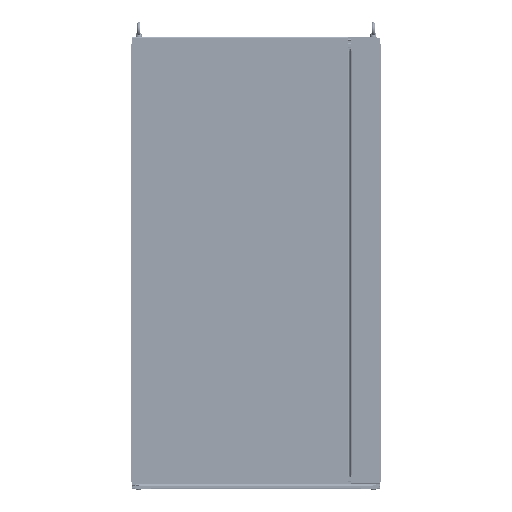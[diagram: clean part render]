
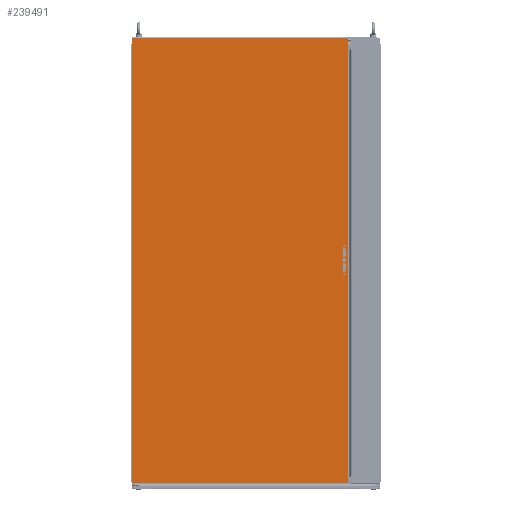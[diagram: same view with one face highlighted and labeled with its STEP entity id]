
A CAD part, top view. The second image highlights one B-rep face of the part: STEP entity #239491.
In plain terms, the highlighted planar face has unit normal (0, 0, 1).
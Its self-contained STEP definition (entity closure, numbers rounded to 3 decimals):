
#237640=DIRECTION('',(0.,1.,0.));
#237641=VECTOR('',#237640,1696.);
#237642=CARTESIAN_POINT('',(-430.5,-837.25,15.));
#237643=LINE('',#237642,#237641);
#237644=CARTESIAN_POINT('',(-414.5,43.75,15.));
#237645=DIRECTION('',(0.,0.,1.));
#237646=DIRECTION('',(1.,0.,0.));
#237647=AXIS2_PLACEMENT_3D('',#237644,#237645,#237646);
#237649=DIRECTION('',(0.,-1.,0.));
#237650=VECTOR('',#237649,27.5);
#237651=CARTESIAN_POINT('',(-419.4,43.75,15.));
#237652=LINE('',#237651,#237650);
#237653=CARTESIAN_POINT('',(-414.5,16.25,15.));
#237654=DIRECTION('',(0.,0.,1.));
#237655=DIRECTION('',(-1.,0.,0.));
#237656=AXIS2_PLACEMENT_3D('',#237653,#237654,#237655);
#237658=DIRECTION('',(0.,1.,0.));
#237659=VECTOR('',#237658,27.5);
#237660=CARTESIAN_POINT('',(-409.6,16.25,15.));
#237661=LINE('',#237660,#237659);
#237662=DIRECTION('',(0.,1.,0.));
#237663=VECTOR('',#237662,27.5);
#237664=CARTESIAN_POINT('',(-409.6,-43.75,15.));
#237665=LINE('',#237664,#237663);
#237666=CARTESIAN_POINT('',(-414.5,-16.25,15.));
#237667=DIRECTION('',(0.,0.,1.));
#237668=DIRECTION('',(1.,0.,0.));
#237669=AXIS2_PLACEMENT_3D('',#237666,#237667,#237668);
#237671=DIRECTION('',(0.,-1.,0.));
#237672=VECTOR('',#237671,27.5);
#237673=CARTESIAN_POINT('',(-419.4,-16.25,15.));
#237674=LINE('',#237673,#237672);
#237675=CARTESIAN_POINT('',(-414.5,-43.75,15.));
#237676=DIRECTION('',(0.,0.,1.));
#237677=DIRECTION('',(-1.,0.,0.));
#237678=AXIS2_PLACEMENT_3D('',#237675,#237676,#237677);
#237680=CARTESIAN_POINT('',(-414.5,56.,15.));
#237681=DIRECTION('',(0.,0.,1.));
#237682=DIRECTION('',(1.,0.,0.));
#237683=AXIS2_PLACEMENT_3D('',#237680,#237681,#237682);
#237685=CARTESIAN_POINT('',(-414.5,56.,15.));
#237686=DIRECTION('',(0.,0.,1.));
#237687=DIRECTION('',(-1.,0.,0.));
#237688=AXIS2_PLACEMENT_3D('',#237685,#237686,#237687);
#237690=CARTESIAN_POINT('',(-414.5,-56.,15.));
#237691=DIRECTION('',(0.,0.,1.));
#237692=DIRECTION('',(1.,0.,0.));
#237693=AXIS2_PLACEMENT_3D('',#237690,#237691,#237692);
#237695=CARTESIAN_POINT('',(-414.5,-56.,15.));
#237696=DIRECTION('',(0.,0.,1.));
#237697=DIRECTION('',(-1.,0.,0.));
#237698=AXIS2_PLACEMENT_3D('',#237695,#237696,#237697);
#237700=CARTESIAN_POINT('',(-414.5,0.,15.));
#237701=DIRECTION('',(0.,0.,1.));
#237702=DIRECTION('',(1.,0.,0.));
#237703=AXIS2_PLACEMENT_3D('',#237700,#237701,#237702);
#237705=CARTESIAN_POINT('',(-414.5,0.,15.));
#237706=DIRECTION('',(0.,0.,1.));
#237707=DIRECTION('',(-1.,0.,0.));
#237708=AXIS2_PLACEMENT_3D('',#237705,#237706,#237707);
#237710=DIRECTION('',(-1.,0.,0.));
#237711=VECTOR('',#237710,861.);
#237712=CARTESIAN_POINT('',(430.5,885.75,15.));
#237713=LINE('',#237712,#237711);
#237714=DIRECTION('',(0.,1.,0.));
#237715=VECTOR('',#237714,1771.5);
#237716=CARTESIAN_POINT('',(430.5,-885.75,15.));
#237717=LINE('',#237716,#237715);
#237718=DIRECTION('',(0.,-1.,0.));
#237719=VECTOR('',#237718,48.5);
#237720=CARTESIAN_POINT('',(-430.5,-837.25,15.));
#237721=LINE('',#237720,#237719);
#237722=DIRECTION('',(0.,-1.,0.));
#237723=VECTOR('',#237722,27.);
#237724=CARTESIAN_POINT('',(-430.5,885.75,15.));
#237725=LINE('',#237724,#237723);
#238614=DIRECTION('',(-1.,0.,0.));
#238615=VECTOR('',#238614,861.);
#238616=CARTESIAN_POINT('',(430.5,-885.75,15.));
#238617=LINE('',#238616,#238615);
#239007=CARTESIAN_POINT('',(430.5,-885.75,15.));
#239009=VERTEX_POINT('',#239007);
#239011=CARTESIAN_POINT('',(430.5,885.75,15.));
#239013=VERTEX_POINT('',#239011);
#239054=CARTESIAN_POINT('',(-409.6,43.75,15.));
#239055=CARTESIAN_POINT('',(-419.4,43.75,15.));
#239056=VERTEX_POINT('',#239054);
#239057=VERTEX_POINT('',#239055);
#239058=CARTESIAN_POINT('',(-419.4,16.25,15.));
#239059=VERTEX_POINT('',#239058);
#239060=CARTESIAN_POINT('',(-409.6,16.25,15.));
#239061=VERTEX_POINT('',#239060);
#239062=CARTESIAN_POINT('',(-409.6,-43.75,15.));
#239063=CARTESIAN_POINT('',(-409.6,-16.25,15.));
#239064=VERTEX_POINT('',#239062);
#239065=VERTEX_POINT('',#239063);
#239066=CARTESIAN_POINT('',(-419.4,-16.25,15.));
#239067=VERTEX_POINT('',#239066);
#239068=CARTESIAN_POINT('',(-419.4,-43.75,15.));
#239069=VERTEX_POINT('',#239068);
#239086=CARTESIAN_POINT('',(-410.5,56.,15.));
#239087=CARTESIAN_POINT('',(-418.5,56.,15.));
#239088=VERTEX_POINT('',#239086);
#239089=VERTEX_POINT('',#239087);
#239090=CARTESIAN_POINT('',(-410.5,-56.,15.));
#239091=CARTESIAN_POINT('',(-418.5,-56.,15.));
#239092=VERTEX_POINT('',#239090);
#239093=VERTEX_POINT('',#239091);
#239094=CARTESIAN_POINT('',(-406.75,0.,15.));
#239095=CARTESIAN_POINT('',(-422.25,0.,15.));
#239096=VERTEX_POINT('',#239094);
#239097=VERTEX_POINT('',#239095);
#239294=CARTESIAN_POINT('',(-430.5,885.75,15.));
#239295=CARTESIAN_POINT('',(-430.5,858.75,15.));
#239296=VERTEX_POINT('',#239294);
#239297=VERTEX_POINT('',#239295);
#239298=CARTESIAN_POINT('',(-430.5,-837.25,15.));
#239299=CARTESIAN_POINT('',(-430.5,-885.75,15.));
#239300=VERTEX_POINT('',#239298);
#239301=VERTEX_POINT('',#239299);
#239435=CARTESIAN_POINT('',(430.5,-885.75,15.));
#239436=DIRECTION('',(0.,0.,1.));
#239437=DIRECTION('',(-1.,0.,0.));
#239438=AXIS2_PLACEMENT_3D('',#239435,#239436,#239437);
#239439=PLANE('',#239438);
#239441=ORIENTED_EDGE('',*,*,#239440,.F.);
#239443=ORIENTED_EDGE('',*,*,#239442,.F.);
#239445=ORIENTED_EDGE('',*,*,#239444,.T.);
#239447=ORIENTED_EDGE('',*,*,#239446,.F.);
#239448=ORIENTED_EDGE('',*,*,#239427,.T.);
#239450=ORIENTED_EDGE('',*,*,#239449,.F.);
#239451=EDGE_LOOP('',(#239441,#239443,#239445,#239447,#239448,#239450));
#239452=FACE_OUTER_BOUND('',#239451,.F.);
#239454=ORIENTED_EDGE('',*,*,#239453,.T.);
#239456=ORIENTED_EDGE('',*,*,#239455,.T.);
#239458=ORIENTED_EDGE('',*,*,#239457,.T.);
#239460=ORIENTED_EDGE('',*,*,#239459,.T.);
#239461=EDGE_LOOP('',(#239454,#239456,#239458,#239460));
#239462=FACE_BOUND('',#239461,.F.);
#239464=ORIENTED_EDGE('',*,*,#239463,.T.);
#239466=ORIENTED_EDGE('',*,*,#239465,.T.);
#239467=EDGE_LOOP('',(#239464,#239466));
#239468=FACE_BOUND('',#239467,.F.);
#239470=ORIENTED_EDGE('',*,*,#239469,.T.);
#239472=ORIENTED_EDGE('',*,*,#239471,.T.);
#239473=EDGE_LOOP('',(#239470,#239472));
#239474=FACE_BOUND('',#239473,.F.);
#239476=ORIENTED_EDGE('',*,*,#239475,.T.);
#239478=ORIENTED_EDGE('',*,*,#239477,.T.);
#239479=EDGE_LOOP('',(#239476,#239478));
#239480=FACE_BOUND('',#239479,.F.);
#239482=ORIENTED_EDGE('',*,*,#239481,.T.);
#239484=ORIENTED_EDGE('',*,*,#239483,.T.);
#239486=ORIENTED_EDGE('',*,*,#239485,.T.);
#239488=ORIENTED_EDGE('',*,*,#239487,.T.);
#239489=EDGE_LOOP('',(#239482,#239484,#239486,#239488));
#239490=FACE_BOUND('',#239489,.F.);
#239491=ADVANCED_FACE('',(#239452,#239462,#239468,#239474,#239480,#239490),
#239439,.T.);
#237648=CIRCLE('',#237647,4.9);
#237657=CIRCLE('',#237656,4.9);
#237670=CIRCLE('',#237669,4.9);
#237679=CIRCLE('',#237678,4.9);
#237684=CIRCLE('',#237683,4.);
#237689=CIRCLE('',#237688,4.);
#237694=CIRCLE('',#237693,4.);
#237699=CIRCLE('',#237698,4.);
#237704=CIRCLE('',#237703,7.75);
#237709=CIRCLE('',#237708,7.75);
#239427=EDGE_CURVE('',#239300,#239297,#237643,.T.);
#239440=EDGE_CURVE('',#239013,#239296,#237713,.T.);
#239442=EDGE_CURVE('',#239009,#239013,#237717,.T.);
#239444=EDGE_CURVE('',#239009,#239301,#238617,.T.);
#239446=EDGE_CURVE('',#239300,#239301,#237721,.T.);
#239449=EDGE_CURVE('',#239296,#239297,#237725,.T.);
#239453=EDGE_CURVE('',#239064,#239065,#237665,.T.);
#239455=EDGE_CURVE('',#239065,#239067,#237670,.T.);
#239457=EDGE_CURVE('',#239067,#239069,#237674,.T.);
#239459=EDGE_CURVE('',#239069,#239064,#237679,.T.);
#239463=EDGE_CURVE('',#239088,#239089,#237684,.T.);
#239465=EDGE_CURVE('',#239089,#239088,#237689,.T.);
#239469=EDGE_CURVE('',#239092,#239093,#237694,.T.);
#239471=EDGE_CURVE('',#239093,#239092,#237699,.T.);
#239475=EDGE_CURVE('',#239096,#239097,#237704,.T.);
#239477=EDGE_CURVE('',#239097,#239096,#237709,.T.);
#239481=EDGE_CURVE('',#239056,#239057,#237648,.T.);
#239483=EDGE_CURVE('',#239057,#239059,#237652,.T.);
#239485=EDGE_CURVE('',#239059,#239061,#237657,.T.);
#239487=EDGE_CURVE('',#239061,#239056,#237661,.T.);
